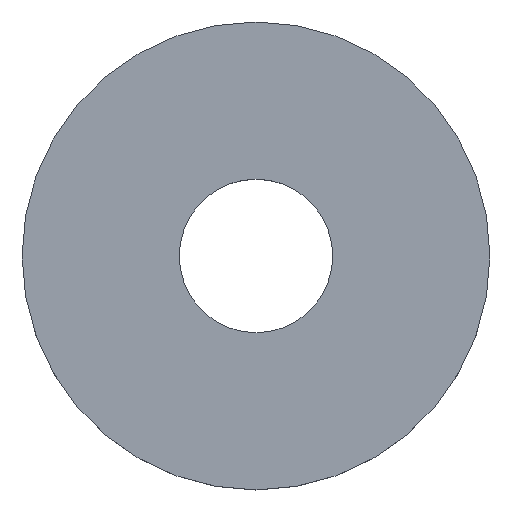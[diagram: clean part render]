
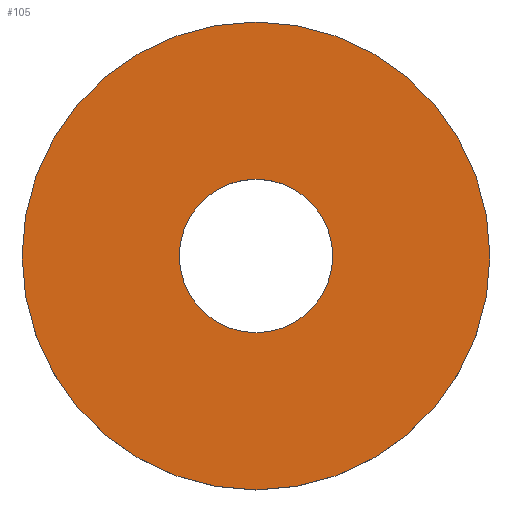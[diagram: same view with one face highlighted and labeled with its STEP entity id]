
A CAD part, top view. The second image highlights one B-rep face of the part: STEP entity #105.
In plain terms, the highlighted planar face has unit normal (0, 0, 1).
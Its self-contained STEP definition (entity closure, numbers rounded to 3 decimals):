
#21 = EDGE_CURVE('',#22,#22,#24,.T.);
#22 = VERTEX_POINT('',#23);
#23 = CARTESIAN_POINT('',(25.,0.,2.));
#24 = SURFACE_CURVE('',#25,(#30,#42),.PCURVE_S1.);
#25 = CIRCLE('',#26,25.);
#26 = AXIS2_PLACEMENT_3D('',#27,#28,#29);
#27 = CARTESIAN_POINT('',(0.,0.,2.));
#28 = DIRECTION('',(0.,0.,1.));
#29 = DIRECTION('',(1.,0.,-0.));
#30 = PCURVE('',#31,#36);
#31 = CYLINDRICAL_SURFACE('',#32,25.);
#32 = AXIS2_PLACEMENT_3D('',#33,#34,#35);
#33 = CARTESIAN_POINT('',(0.,0.,-4.));
#34 = DIRECTION('',(0.,0.,1.));
#35 = DIRECTION('',(1.,0.,-0.));
#36 = DEFINITIONAL_REPRESENTATION('',(#37),#41);
#37 = LINE('',#38,#39);
#38 = CARTESIAN_POINT('',(0.,6.));
#39 = VECTOR('',#40,1.);
#40 = DIRECTION('',(1.,0.));
#41 = ( GEOMETRIC_REPRESENTATION_CONTEXT(2) 
PARAMETRIC_REPRESENTATION_CONTEXT() REPRESENTATION_CONTEXT('2D SPACE',''
  ) );
#42 = PCURVE('',#43,#48);
#43 = PLANE('',#44);
#44 = AXIS2_PLACEMENT_3D('',#45,#46,#47);
#45 = CARTESIAN_POINT('',(0.,0.,2.));
#46 = DIRECTION('',(0.,0.,1.));
#47 = DIRECTION('',(1.,0.,-0.));
#48 = DEFINITIONAL_REPRESENTATION('',(#49),#53);
#49 = CIRCLE('',#50,25.);
#50 = AXIS2_PLACEMENT_2D('',#51,#52);
#51 = CARTESIAN_POINT('',(0.,0.));
#52 = DIRECTION('',(1.,0.));
#53 = ( GEOMETRIC_REPRESENTATION_CONTEXT(2) 
PARAMETRIC_REPRESENTATION_CONTEXT() REPRESENTATION_CONTEXT('2D SPACE',''
  ) );
#105 = ADVANCED_FACE('',(#106,#109),#43,.T.);
#106 = FACE_BOUND('',#107,.T.);
#107 = EDGE_LOOP('',(#108));
#108 = ORIENTED_EDGE('',*,*,#21,.T.);
#109 = FACE_BOUND('',#110,.T.);
#110 = EDGE_LOOP('',(#111));
#111 = ORIENTED_EDGE('',*,*,#112,.F.);
#112 = EDGE_CURVE('',#113,#113,#115,.T.);
#113 = VERTEX_POINT('',#114);
#114 = CARTESIAN_POINT('',(8.2,0.,2.));
#115 = SURFACE_CURVE('',#116,(#121,#128),.PCURVE_S1.);
#116 = CIRCLE('',#117,8.2);
#117 = AXIS2_PLACEMENT_3D('',#118,#119,#120);
#118 = CARTESIAN_POINT('',(0.,0.,2.));
#119 = DIRECTION('',(0.,0.,1.));
#120 = DIRECTION('',(1.,0.,-0.));
#121 = PCURVE('',#43,#122);
#122 = DEFINITIONAL_REPRESENTATION('',(#123),#127);
#123 = CIRCLE('',#124,8.2);
#124 = AXIS2_PLACEMENT_2D('',#125,#126);
#125 = CARTESIAN_POINT('',(0.,0.));
#126 = DIRECTION('',(1.,0.));
#127 = ( GEOMETRIC_REPRESENTATION_CONTEXT(2) 
PARAMETRIC_REPRESENTATION_CONTEXT() REPRESENTATION_CONTEXT('2D SPACE',''
  ) );
#128 = PCURVE('',#129,#134);
#129 = CYLINDRICAL_SURFACE('',#130,8.2);
#130 = AXIS2_PLACEMENT_3D('',#131,#132,#133);
#131 = CARTESIAN_POINT('',(0.,0.,-4.));
#132 = DIRECTION('',(0.,0.,1.));
#133 = DIRECTION('',(1.,0.,-0.));
#134 = DEFINITIONAL_REPRESENTATION('',(#135),#139);
#135 = LINE('',#136,#137);
#136 = CARTESIAN_POINT('',(0.,6.));
#137 = VECTOR('',#138,1.);
#138 = DIRECTION('',(1.,0.));
#139 = ( GEOMETRIC_REPRESENTATION_CONTEXT(2) 
PARAMETRIC_REPRESENTATION_CONTEXT() REPRESENTATION_CONTEXT('2D SPACE',''
  ) );
